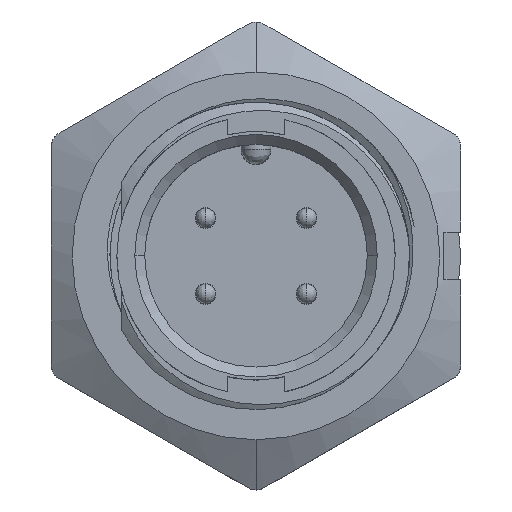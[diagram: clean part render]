
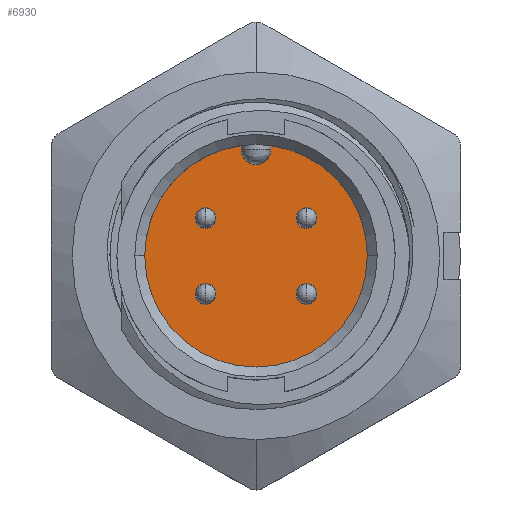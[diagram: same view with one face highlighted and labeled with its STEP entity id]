
A CAD part, top view. The second image highlights one B-rep face of the part: STEP entity #6930.
In plain terms, the highlighted planar face has unit normal (0, 0, 1).
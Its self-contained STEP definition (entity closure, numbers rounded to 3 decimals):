
#91 = DIRECTION ( 'NONE',  ( 1., 0., 0. ) ) ;
#96 = CIRCLE ( 'NONE', #6833, 0.525 ) ;
#196 = VERTEX_POINT ( 'NONE', #8947 ) ;
#216 = CARTESIAN_POINT ( 'NONE',  ( 2.54, -1.91, -9. ) ) ;
#323 = EDGE_LOOP ( 'NONE', ( #3663, #7844 ) ) ;
#408 = CARTESIAN_POINT ( 'NONE',  ( 2.015, -1.91, -9. ) ) ;
#476 = AXIS2_PLACEMENT_3D ( 'NONE', #216, #12005, #91 ) ;
#543 = DIRECTION ( 'NONE',  ( 1., 0., 0. ) ) ;
#612 = VERTEX_POINT ( 'NONE', #2189 ) ;
#677 = VECTOR ( 'NONE', #4005, 1000. ) ;
#691 = EDGE_CURVE ( 'NONE', #1338, #9555, #9312, .T. ) ;
#790 = EDGE_LOOP ( 'NONE', ( #2238, #12571 ) ) ;
#845 = DIRECTION ( 'NONE',  ( 0., 0., -1. ) ) ;
#977 = FACE_BOUND ( 'NONE', #2672, .T. ) ;
#1072 = DIRECTION ( 'NONE',  ( 0., 0., -1. ) ) ;
#1270 = CARTESIAN_POINT ( 'NONE',  ( -3.065, 1.905, -9. ) ) ;
#1338 = VERTEX_POINT ( 'NONE', #6211 ) ;
#1377 = CIRCLE ( 'NONE', #8957, 5.6 ) ;
#1505 = VERTEX_POINT ( 'NONE', #5024 ) ;
#1526 = DIRECTION ( 'NONE',  ( 0., 0., -1. ) ) ;
#1568 = CARTESIAN_POINT ( 'NONE',  ( -2.54, -1.91, -9. ) ) ;
#1600 = ORIENTED_EDGE ( 'NONE', *, *, #6932, .T. ) ;
#1605 = DIRECTION ( 'NONE',  ( 1., 0., 0. ) ) ;
#1709 = AXIS2_PLACEMENT_3D ( 'NONE', #1568, #12494, #2478 ) ;
#1732 = DIRECTION ( 'NONE',  ( 0., 0., -1. ) ) ;
#2189 = CARTESIAN_POINT ( 'NONE',  ( 3.065, -1.91, -9. ) ) ;
#2238 = ORIENTED_EDGE ( 'NONE', *, *, #7005, .T. ) ;
#2421 = CARTESIAN_POINT ( 'NONE',  ( -0.75, 5.35, -9. ) ) ;
#2478 = DIRECTION ( 'NONE',  ( 1., 0., 0. ) ) ;
#2672 = EDGE_LOOP ( 'NONE', ( #12819, #1600 ) ) ;
#2772 = EDGE_LOOP ( 'NONE', ( #11988, #9167, #2903, #5038, #6170, #6475 ) ) ;
#2814 = EDGE_CURVE ( 'NONE', #12310, #1338, #7852, .T. ) ;
#2903 = ORIENTED_EDGE ( 'NONE', *, *, #10625, .T. ) ;
#3070 = LINE ( 'NONE', #9138, #4437 ) ;
#3555 = DIRECTION ( 'NONE',  ( 1., 0., 0. ) ) ;
#3617 = DIRECTION ( 'NONE',  ( 1., 0., 0. ) ) ;
#3646 = CARTESIAN_POINT ( 'NONE',  ( 2.015, 1.91, -9. ) ) ;
#3663 = ORIENTED_EDGE ( 'NONE', *, *, #9139, .T. ) ;
#3779 = EDGE_CURVE ( 'NONE', #612, #11973, #6158, .T. ) ;
#3797 = DIRECTION ( 'NONE',  ( 0., 0., 1. ) ) ;
#3864 = CARTESIAN_POINT ( 'NONE',  ( 0., 5.35, -9. ) ) ;
#3982 = VERTEX_POINT ( 'NONE', #8630 ) ;
#4005 = DIRECTION ( 'NONE',  ( 0., -1., 0. ) ) ;
#4149 = VERTEX_POINT ( 'NONE', #6249 ) ;
#4280 = AXIS2_PLACEMENT_3D ( 'NONE', #12959, #3797, #9999 ) ;
#4334 = VERTEX_POINT ( 'NONE', #8748 ) ;
#4355 = CARTESIAN_POINT ( 'NONE',  ( -2.54, 1.905, -9. ) ) ;
#4437 = VECTOR ( 'NONE', #8025, 1000. ) ;
#4582 = EDGE_LOOP ( 'NONE', ( #4978, #6452 ) ) ;
#4689 = CARTESIAN_POINT ( 'NONE',  ( 3.065, 1.91, -9. ) ) ;
#4715 = CARTESIAN_POINT ( 'NONE',  ( -2.54, -1.91, -9. ) ) ;
#4724 = VERTEX_POINT ( 'NONE', #4689 ) ;
#4852 = FACE_BOUND ( 'NONE', #790, .T. ) ;
#4978 = ORIENTED_EDGE ( 'NONE', *, *, #6521, .T. ) ;
#4985 = DIRECTION ( 'NONE',  ( 1., 0., 0. ) ) ;
#5024 = CARTESIAN_POINT ( 'NONE',  ( -0.75, 5.55, -9. ) ) ;
#5038 = ORIENTED_EDGE ( 'NONE', *, *, #5984, .T. ) ;
#5228 = EDGE_CURVE ( 'NONE', #4149, #12736, #5975, .T. ) ;
#5340 = AXIS2_PLACEMENT_3D ( 'NONE', #4715, #6913, #4985 ) ;
#5471 = CARTESIAN_POINT ( 'NONE',  ( -2.54, 1.905, -9. ) ) ;
#5581 = CIRCLE ( 'NONE', #11052, 0.525 ) ;
#5616 = CARTESIAN_POINT ( 'NONE',  ( 0., 0., -9. ) ) ;
#5975 = CIRCLE ( 'NONE', #10809, 5.6 ) ;
#5984 = EDGE_CURVE ( 'NONE', #1505, #4149, #6390, .T. ) ;
#6158 = CIRCLE ( 'NONE', #476, 0.525 ) ;
#6170 = ORIENTED_EDGE ( 'NONE', *, *, #5228, .T. ) ;
#6190 = VERTEX_POINT ( 'NONE', #3646 ) ;
#6211 = CARTESIAN_POINT ( 'NONE',  ( 0.75, 5.35, -9. ) ) ;
#6249 = CARTESIAN_POINT ( 'NONE',  ( -5.6, 0., -9. ) ) ;
#6390 = CIRCLE ( 'NONE', #9330, 5.6 ) ;
#6396 = DIRECTION ( 'NONE',  ( 0., 0., 1. ) ) ;
#6447 = AXIS2_PLACEMENT_3D ( 'NONE', #5471, #8643, #9619 ) ;
#6452 = ORIENTED_EDGE ( 'NONE', *, *, #11575, .T. ) ;
#6475 = ORIENTED_EDGE ( 'NONE', *, *, #9215, .T. ) ;
#6521 = EDGE_CURVE ( 'NONE', #4724, #6190, #11867, .T. ) ;
#6779 = CARTESIAN_POINT ( 'NONE',  ( 2.54, -1.91, -9. ) ) ;
#6833 = AXIS2_PLACEMENT_3D ( 'NONE', #6779, #845, #8028 ) ;
#6913 = DIRECTION ( 'NONE',  ( 0., 0., -1. ) ) ;
#6930 = ADVANCED_FACE ( 'NONE', ( #977, #4852, #8890, #9010, #8955 ), #12760, .T. ) ;
#6932 = EDGE_CURVE ( 'NONE', #11973, #612, #96, .T. ) ;
#7005 = EDGE_CURVE ( 'NONE', #196, #3982, #9137, .T. ) ;
#7245 = CARTESIAN_POINT ( 'NONE',  ( 0.75, 5.55, -9. ) ) ;
#7404 = CIRCLE ( 'NONE', #1709, 0.525 ) ;
#7537 = VERTEX_POINT ( 'NONE', #1270 ) ;
#7580 = CARTESIAN_POINT ( 'NONE',  ( 0., 0., -9. ) ) ;
#7844 = ORIENTED_EDGE ( 'NONE', *, *, #11810, .T. ) ;
#7852 = LINE ( 'NONE', #8044, #677 ) ;
#8025 = DIRECTION ( 'NONE',  ( 0., 1., 0. ) ) ;
#8028 = DIRECTION ( 'NONE',  ( 1., 0., 0. ) ) ;
#8044 = CARTESIAN_POINT ( 'NONE',  ( 0.75, -0.028, -9. ) ) ;
#8197 = DIRECTION ( 'NONE',  ( 1., 0., 0. ) ) ;
#8630 = CARTESIAN_POINT ( 'NONE',  ( -3.065, -1.91, -9. ) ) ;
#8643 = DIRECTION ( 'NONE',  ( 0., 0., -1. ) ) ;
#8650 = DIRECTION ( 'NONE',  ( 1., 0., 0. ) ) ;
#8748 = CARTESIAN_POINT ( 'NONE',  ( -2.015, 1.905, -9. ) ) ;
#8890 = FACE_BOUND ( 'NONE', #4582, .T. ) ;
#8947 = CARTESIAN_POINT ( 'NONE',  ( -2.015, -1.91, -9. ) ) ;
#8955 = FACE_OUTER_BOUND ( 'NONE', #2772, .T. ) ;
#8957 = AXIS2_PLACEMENT_3D ( 'NONE', #10682, #12917, #8650 ) ;
#9010 = FACE_BOUND ( 'NONE', #323, .T. ) ;
#9137 = CIRCLE ( 'NONE', #5340, 0.525 ) ;
#9138 = CARTESIAN_POINT ( 'NONE',  ( -0.75, -0.028, -9. ) ) ;
#9139 = EDGE_CURVE ( 'NONE', #4334, #7537, #5581, .T. ) ;
#9167 = ORIENTED_EDGE ( 'NONE', *, *, #691, .T. ) ;
#9215 = EDGE_CURVE ( 'NONE', #12736, #12310, #1377, .T. ) ;
#9312 = CIRCLE ( 'NONE', #9529, 0.75 ) ;
#9330 = AXIS2_PLACEMENT_3D ( 'NONE', #7580, #6396, #10671 ) ;
#9442 = CARTESIAN_POINT ( 'NONE',  ( 5.6, 0., -9. ) ) ;
#9487 = CARTESIAN_POINT ( 'NONE',  ( 2.54, 1.91, -9. ) ) ;
#9529 = AXIS2_PLACEMENT_3D ( 'NONE', #3864, #1072, #8197 ) ;
#9555 = VERTEX_POINT ( 'NONE', #2421 ) ;
#9619 = DIRECTION ( 'NONE',  ( 1., 0., 0. ) ) ;
#9999 = DIRECTION ( 'NONE',  ( 1., 0., 0. ) ) ;
#10021 = CIRCLE ( 'NONE', #11908, 0.525 ) ;
#10501 = EDGE_CURVE ( 'NONE', #3982, #196, #7404, .T. ) ;
#10625 = EDGE_CURVE ( 'NONE', #9555, #1505, #3070, .T. ) ;
#10671 = DIRECTION ( 'NONE',  ( 1., 0., 0. ) ) ;
#10682 = CARTESIAN_POINT ( 'NONE',  ( 0., 0., -9. ) ) ;
#10693 = CARTESIAN_POINT ( 'NONE',  ( 2.54, 1.91, -9. ) ) ;
#10809 = AXIS2_PLACEMENT_3D ( 'NONE', #5616, #12589, #3555 ) ;
#11052 = AXIS2_PLACEMENT_3D ( 'NONE', #4355, #1526, #543 ) ;
#11229 = AXIS2_PLACEMENT_3D ( 'NONE', #9487, #12646, #3617 ) ;
#11280 = CIRCLE ( 'NONE', #6447, 0.525 ) ;
#11575 = EDGE_CURVE ( 'NONE', #6190, #4724, #10021, .T. ) ;
#11810 = EDGE_CURVE ( 'NONE', #7537, #4334, #11280, .T. ) ;
#11867 = CIRCLE ( 'NONE', #11229, 0.525 ) ;
#11908 = AXIS2_PLACEMENT_3D ( 'NONE', #10693, #1732, #1605 ) ;
#11973 = VERTEX_POINT ( 'NONE', #408 ) ;
#11988 = ORIENTED_EDGE ( 'NONE', *, *, #2814, .T. ) ;
#12005 = DIRECTION ( 'NONE',  ( 0., 0., -1. ) ) ;
#12310 = VERTEX_POINT ( 'NONE', #7245 ) ;
#12494 = DIRECTION ( 'NONE',  ( 0., 0., -1. ) ) ;
#12571 = ORIENTED_EDGE ( 'NONE', *, *, #10501, .T. ) ;
#12589 = DIRECTION ( 'NONE',  ( 0., 0., 1. ) ) ;
#12646 = DIRECTION ( 'NONE',  ( 0., 0., -1. ) ) ;
#12736 = VERTEX_POINT ( 'NONE', #9442 ) ;
#12760 = PLANE ( 'NONE',  #4280 ) ;
#12819 = ORIENTED_EDGE ( 'NONE', *, *, #3779, .T. ) ;
#12917 = DIRECTION ( 'NONE',  ( 0., 0., 1. ) ) ;
#12959 = CARTESIAN_POINT ( 'NONE',  ( 0., -0.028, -9. ) ) ;
